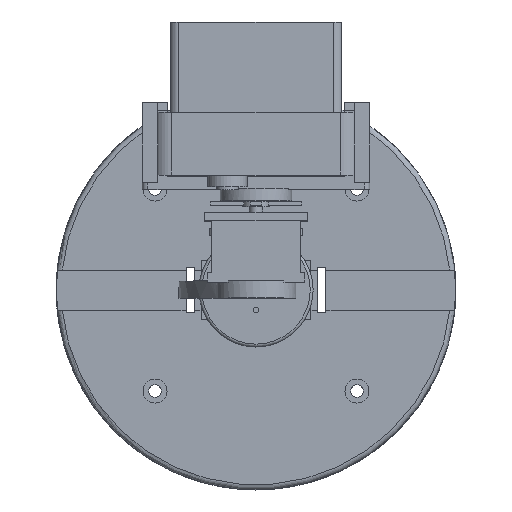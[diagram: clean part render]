
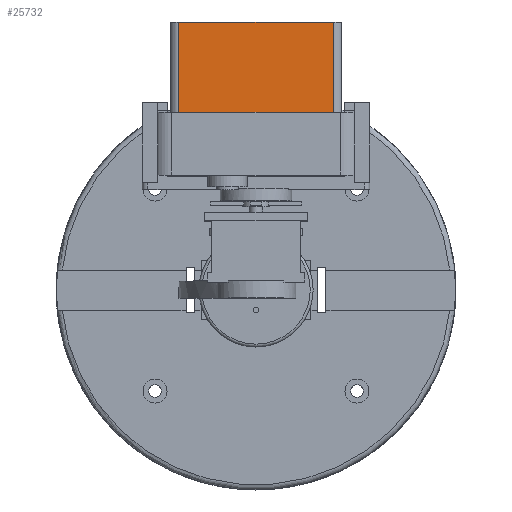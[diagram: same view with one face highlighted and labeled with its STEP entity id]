
A CAD part, top view. The second image highlights one B-rep face of the part: STEP entity #25732.
In plain terms, the highlighted planar face has unit normal (0, 0, 1).
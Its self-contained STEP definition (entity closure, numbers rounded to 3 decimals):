
#25102 = PLANE('',#25103);
#25103 = AXIS2_PLACEMENT_3D('',#25104,#25105,#25106);
#25104 = CARTESIAN_POINT('',(-30.,49.,90.));
#25105 = DIRECTION('',(0.,1.,0.));
#25106 = DIRECTION('',(0.,0.,1.));
#25158 = PLANE('',#25159);
#25159 = AXIS2_PLACEMENT_3D('',#25160,#25161,#25162);
#25160 = CARTESIAN_POINT('',(-30.,93.64,90.));
#25161 = DIRECTION('',(0.,1.,0.));
#25162 = DIRECTION('',(0.,0.,1.));
#25184 = CYLINDRICAL_SURFACE('',#25185,3.);
#25185 = AXIS2_PLACEMENT_3D('',#25186,#25187,#25188);
#25186 = CARTESIAN_POINT('',(-27.,49.,99.));
#25187 = DIRECTION('',(0.,1.,0.));
#25188 = DIRECTION('',(-1.,0.,0.));
#25257 = VERTEX_POINT('',#25258);
#25258 = CARTESIAN_POINT('',(-27.,49.,102.));
#25280 = EDGE_CURVE('',#25257,#25281,#25283,.T.);
#25281 = VERTEX_POINT('',#25282);
#25282 = CARTESIAN_POINT('',(27.,49.,102.));
#25283 = SURFACE_CURVE('',#25284,(#25288,#25295),.PCURVE_S1.);
#25284 = LINE('',#25285,#25286);
#25285 = CARTESIAN_POINT('',(-30.,49.,102.));
#25286 = VECTOR('',#25287,1.);
#25287 = DIRECTION('',(1.,0.,0.));
#25288 = PCURVE('',#25102,#25289);
#25289 = DEFINITIONAL_REPRESENTATION('',(#25290),#25294);
#25290 = LINE('',#25291,#25292);
#25291 = CARTESIAN_POINT('',(12.,0.));
#25292 = VECTOR('',#25293,1.);
#25293 = DIRECTION('',(0.,1.));
#25294 = ( GEOMETRIC_REPRESENTATION_CONTEXT(2) 
PARAMETRIC_REPRESENTATION_CONTEXT() REPRESENTATION_CONTEXT('2D SPACE',''
  ) );
#25295 = PCURVE('',#25296,#25301);
#25296 = PLANE('',#25297);
#25297 = AXIS2_PLACEMENT_3D('',#25298,#25299,#25300);
#25298 = CARTESIAN_POINT('',(-30.,49.,102.));
#25299 = DIRECTION('',(0.,0.,1.));
#25300 = DIRECTION('',(1.,0.,0.));
#25301 = DEFINITIONAL_REPRESENTATION('',(#25302),#25306);
#25302 = LINE('',#25303,#25304);
#25303 = CARTESIAN_POINT('',(0.,0.));
#25304 = VECTOR('',#25305,1.);
#25305 = DIRECTION('',(1.,0.));
#25306 = ( GEOMETRIC_REPRESENTATION_CONTEXT(2) 
PARAMETRIC_REPRESENTATION_CONTEXT() REPRESENTATION_CONTEXT('2D SPACE',''
  ) );
#25329 = CYLINDRICAL_SURFACE('',#25330,3.);
#25330 = AXIS2_PLACEMENT_3D('',#25331,#25332,#25333);
#25331 = CARTESIAN_POINT('',(27.,49.,99.));
#25332 = DIRECTION('',(0.,1.,0.));
#25333 = DIRECTION('',(1.,0.,-0.));
#25454 = EDGE_CURVE('',#25257,#25455,#25457,.T.);
#25455 = VERTEX_POINT('',#25456);
#25456 = CARTESIAN_POINT('',(-27.,93.64,102.));
#25457 = SURFACE_CURVE('',#25458,(#25462,#25469),.PCURVE_S1.);
#25458 = LINE('',#25459,#25460);
#25459 = CARTESIAN_POINT('',(-27.,49.,102.));
#25460 = VECTOR('',#25461,1.);
#25461 = DIRECTION('',(0.,1.,0.));
#25462 = PCURVE('',#25184,#25463);
#25463 = DEFINITIONAL_REPRESENTATION('',(#25464),#25468);
#25464 = LINE('',#25465,#25466);
#25465 = CARTESIAN_POINT('',(1.571,0.));
#25466 = VECTOR('',#25467,1.);
#25467 = DIRECTION('',(0.,1.));
#25468 = ( GEOMETRIC_REPRESENTATION_CONTEXT(2) 
PARAMETRIC_REPRESENTATION_CONTEXT() REPRESENTATION_CONTEXT('2D SPACE',''
  ) );
#25469 = PCURVE('',#25296,#25470);
#25470 = DEFINITIONAL_REPRESENTATION('',(#25471),#25475);
#25471 = LINE('',#25472,#25473);
#25472 = CARTESIAN_POINT('',(3.,0.));
#25473 = VECTOR('',#25474,1.);
#25474 = DIRECTION('',(0.,1.));
#25475 = ( GEOMETRIC_REPRESENTATION_CONTEXT(2) 
PARAMETRIC_REPRESENTATION_CONTEXT() REPRESENTATION_CONTEXT('2D SPACE',''
  ) );
#25529 = EDGE_CURVE('',#25455,#25530,#25532,.T.);
#25530 = VERTEX_POINT('',#25531);
#25531 = CARTESIAN_POINT('',(27.,93.64,102.));
#25532 = SURFACE_CURVE('',#25533,(#25537,#25544),.PCURVE_S1.);
#25533 = LINE('',#25534,#25535);
#25534 = CARTESIAN_POINT('',(-30.,93.64,102.));
#25535 = VECTOR('',#25536,1.);
#25536 = DIRECTION('',(1.,0.,0.));
#25537 = PCURVE('',#25158,#25538);
#25538 = DEFINITIONAL_REPRESENTATION('',(#25539),#25543);
#25539 = LINE('',#25540,#25541);
#25540 = CARTESIAN_POINT('',(12.,0.));
#25541 = VECTOR('',#25542,1.);
#25542 = DIRECTION('',(0.,1.));
#25543 = ( GEOMETRIC_REPRESENTATION_CONTEXT(2) 
PARAMETRIC_REPRESENTATION_CONTEXT() REPRESENTATION_CONTEXT('2D SPACE',''
  ) );
#25544 = PCURVE('',#25296,#25545);
#25545 = DEFINITIONAL_REPRESENTATION('',(#25546),#25550);
#25546 = LINE('',#25547,#25548);
#25547 = CARTESIAN_POINT('',(0.,44.64));
#25548 = VECTOR('',#25549,1.);
#25549 = DIRECTION('',(1.,0.));
#25550 = ( GEOMETRIC_REPRESENTATION_CONTEXT(2) 
PARAMETRIC_REPRESENTATION_CONTEXT() REPRESENTATION_CONTEXT('2D SPACE',''
  ) );
#25710 = EDGE_CURVE('',#25281,#25530,#25711,.T.);
#25711 = SURFACE_CURVE('',#25712,(#25716,#25723),.PCURVE_S1.);
#25712 = LINE('',#25713,#25714);
#25713 = CARTESIAN_POINT('',(27.,49.,102.));
#25714 = VECTOR('',#25715,1.);
#25715 = DIRECTION('',(0.,1.,0.));
#25716 = PCURVE('',#25329,#25717);
#25717 = DEFINITIONAL_REPRESENTATION('',(#25718),#25722);
#25718 = LINE('',#25719,#25720);
#25719 = CARTESIAN_POINT('',(-1.571,0.));
#25720 = VECTOR('',#25721,1.);
#25721 = DIRECTION('',(-0.,1.));
#25722 = ( GEOMETRIC_REPRESENTATION_CONTEXT(2) 
PARAMETRIC_REPRESENTATION_CONTEXT() REPRESENTATION_CONTEXT('2D SPACE',''
  ) );
#25723 = PCURVE('',#25296,#25724);
#25724 = DEFINITIONAL_REPRESENTATION('',(#25725),#25729);
#25725 = LINE('',#25726,#25727);
#25726 = CARTESIAN_POINT('',(57.,0.));
#25727 = VECTOR('',#25728,1.);
#25728 = DIRECTION('',(0.,1.));
#25729 = ( GEOMETRIC_REPRESENTATION_CONTEXT(2) 
PARAMETRIC_REPRESENTATION_CONTEXT() REPRESENTATION_CONTEXT('2D SPACE',''
  ) );
#25732 = ADVANCED_FACE('',(#25733),#25296,.T.);
#25733 = FACE_BOUND('',#25734,.T.);
#25734 = EDGE_LOOP('',(#25735,#25736,#25737,#25738));
#25735 = ORIENTED_EDGE('',*,*,#25529,.F.);
#25736 = ORIENTED_EDGE('',*,*,#25454,.F.);
#25737 = ORIENTED_EDGE('',*,*,#25280,.T.);
#25738 = ORIENTED_EDGE('',*,*,#25710,.T.);
